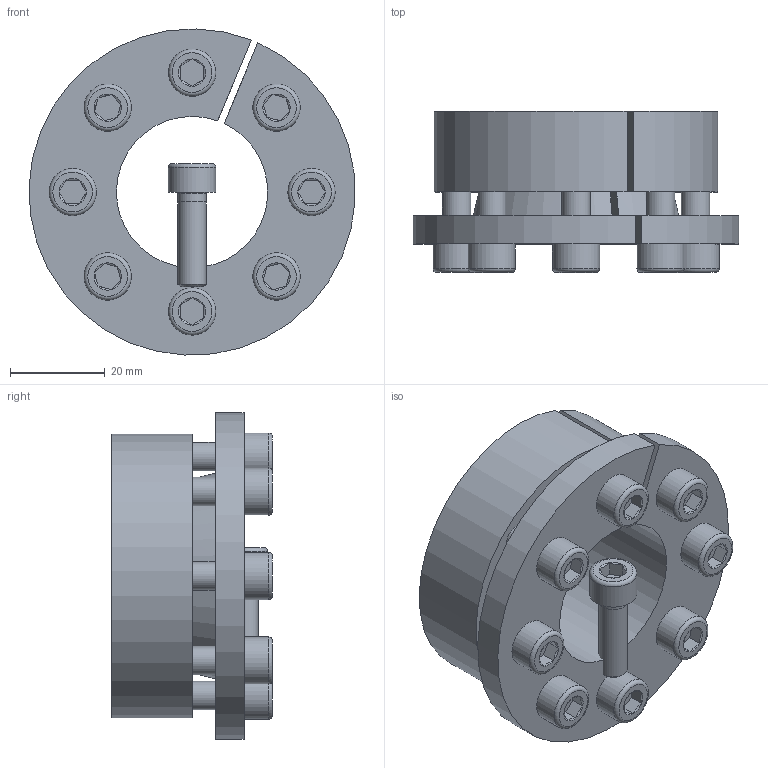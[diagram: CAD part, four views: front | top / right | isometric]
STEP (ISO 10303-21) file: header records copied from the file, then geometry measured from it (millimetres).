
FILE_DESCRIPTION( ( 'Unknown' ), '1' );
FILE_NAME( 'C:/Dokumente und Einstellungen/Sven/Desktop/homepage/cad - homepage/KBS16/KBS 16 - 32 x 60.stp', 'Unknown', ( 'Unknown' ), ( 'Unknown' ), 'XStep 1.0', 'Unknown', ' ' );
FILE_SCHEMA( ( 'automotive_design' ) );
Length unit declared in the file: millimetre
Products named in the file (3): Assem1; KBS 16 - 32 x 60; ISO EN DIN 4762 M6x20
Bounding box: 68.92 x 34 x 68.95 mm (x, y, z)
Volume: 106659.2 mm3; surface area: 46854.9 mm2
Topology: 11 solids, 11 shells, 281 faces, 557 edges, 334 vertices
Faces by surface type: plane 122, cylinder 74, cone 67, torus 18
Full cylindrical faces by diameter (mm): 5 x9, 6 x50, 10 x9
Entity records: 1798 total; most frequent: CARTESIAN_POINT 293, DIRECTION 272, ORIENTED_EDGE 194, AXIS2_PLACEMENT_3D 122, EDGE_LOOP 112, EDGE_CURVE 97, FACE_OUTER_BOUND 75, VERTEX_POINT 75
